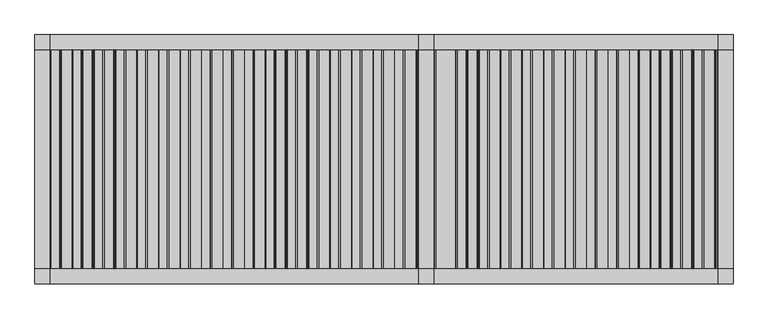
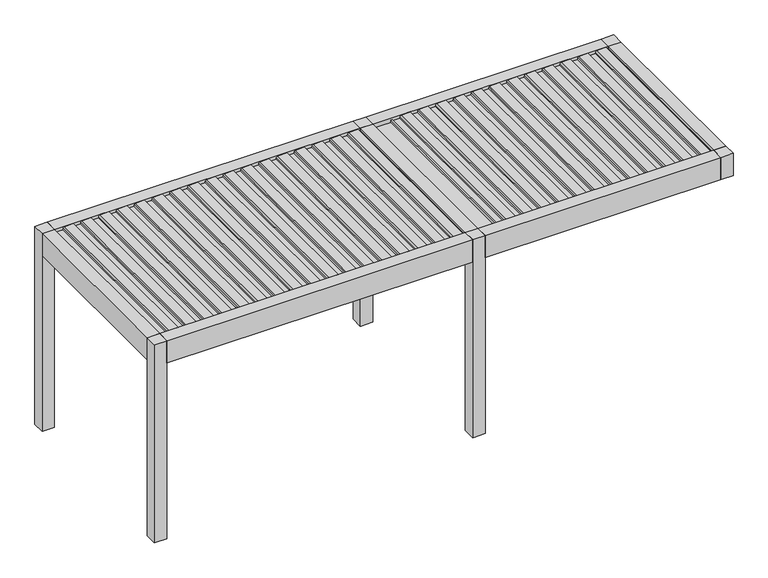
"""IFC4 building model written with IfcOpenShell, lengths in millimetres: proxy geometry, Renson_Amani_Patio_Cover : Renson_Amani_Patio_Cover."""

import ifcopenshell
import ifcopenshell.guid

model = None  # the IFC model being written
_history = None  # IfcOwnerHistory: only IFC2X3 demands one
_inside = {}  # id of a spatial element -> (the spatial element, [elements in it])
_under = {}  # id of a project, library or spatial element -> (it, [spatial elements below it])
_declared = {}  # id of a project -> (the project, [libraries it declares])
_typed = {}  # id of a type object -> (the type object, [elements of that type])
_made_of = {}  # id of a material, layer set ... -> (it, [elements and type objects made of it])


def new_model(schema):
    """Start an empty IFC model of exactly this schema.

    Asked for "IFC4X3", IfcOpenShell would pick the latest addendum, in which some entities
    have other attributes; the version numbers below select the first issue.
    IFC2X3 requires an IfcOwnerHistory on every rooted entity: one is made here for all.
    """
    global model, _history
    if schema == "IFC4X3":
        model = ifcopenshell.file(schema_version=(4, 3, 0, 0))
    else:
        model = ifcopenshell.file(schema=schema)
    _inside.clear()
    _under.clear()
    _declared.clear()
    _typed.clear()
    _made_of.clear()
    _history = None
    if model.schema == "IFC2X3":
        org = make("IfcOrganization", Name="unknown")
        user = make(
            "IfcPersonAndOrganization",
            ThePerson=make("IfcPerson", FamilyName="unknown"),
            TheOrganization=org,
        )
        app = make(
            "IfcApplication",
            ApplicationDeveloper=org,
            Version="unknown",
            ApplicationFullName="unknown",
            ApplicationIdentifier="unknown",
        )
        _history = make(
            "IfcOwnerHistory",
            OwningUser=user,
            OwningApplication=app,
            ChangeAction="ADDED",
            CreationDate=0,
        )
    return model


def make(cls, **values):
    """One entity of the class cls with the attributes given. An attribute that is None is left unset."""
    return model.create_entity(
        cls, **{name: value for name, value in values.items() if value is not None}
    )


def rooted(cls, **values):
    """An entity with a GlobalId (a new one), such as an element, a storey or a relation."""
    return make(cls, GlobalId=ifcopenshell.guid.new(), OwnerHistory=_history, **values)


def si_unit(unit_type, name, prefix=None):
    """IfcSIUnit, for example si_unit("LENGTHUNIT", "METRE", prefix="MILLI")."""
    return make("IfcSIUnit", UnitType=unit_type, Prefix=prefix, Name=name)


def assignment(units):
    """IfcUnitAssignment: the units of a project."""
    return None if units is None else make("IfcUnitAssignment", Units=units)


def point(xyz):
    """IfcCartesianPoint."""
    return None if xyz is None else make("IfcCartesianPoint", Coordinates=xyz)


def direction(xyz):
    """IfcDirection."""
    return None if xyz is None else make("IfcDirection", DirectionRatios=xyz)


def frame(location, z_axis=None, x_axis=None):
    """IfcAxis2Placement3D, a coordinate frame: its origin and axes. An axis left out is left unset."""
    return make(
        "IfcAxis2Placement3D",
        Location=point(location),
        Axis=direction(z_axis),
        RefDirection=direction(x_axis),
    )


def frame_2d(location, x_axis=None):
    """IfcAxis2Placement2D, a coordinate frame in the plane: its origin and x axis."""
    return make(
        "IfcAxis2Placement2D", Location=point(location), RefDirection=direction(x_axis)
    )


def origin():
    """The frame at (0, 0, 0) with its axes left unset."""
    return frame((0.0, 0.0, 0.0))


def origin_with_axes():
    """The frame at (0, 0, 0) with the z axis (0, 0, 1) and the x axis (1, 0, 0) written out."""
    return frame((0.0, 0.0, 0.0), z_axis=(0.0, 0.0, 1.0), x_axis=(1.0, 0.0, 0.0))


def place(relative_to, where):
    """IfcLocalPlacement: puts the frame where relative to a parent placement (None: the world)."""
    return make(
        "IfcLocalPlacement", PlacementRelTo=relative_to, RelativePlacement=where
    )


def context(
    kind, dimensions, precision=None, world=None, true_north=None, identifier=None
):
    """IfcGeometricRepresentationContext, for example the 3D "Model" context."""
    return make(
        "IfcGeometricRepresentationContext",
        ContextIdentifier=identifier,
        ContextType=kind,
        CoordinateSpaceDimension=dimensions,
        Precision=precision,
        WorldCoordinateSystem=world,
        TrueNorth=true_north,
    )


def project(units=None, contexts=None):
    """IfcProject with its units and contexts."""
    return rooted(
        "IfcProject",
        Name="project",
        RepresentationContexts=contexts,
        UnitsInContext=assignment(units),
    )


def spatial(cls, under=None, at=None, **own):
    """A site, building, storey or space (cls), placed at a placement, below another one or the project."""
    s = rooted(cls, ObjectPlacement=at, **own)
    if under is not None:
        _under.setdefault(under.id(), (under, []))[1].append(s)
    return s


def polyline(points):
    """IfcPolyline through the points."""
    return make("IfcPolyline", Points=[point(p) for p in points])


def circle_curve(where, radius):
    """IfcCircle in the frame where."""
    return make("IfcCircle", Position=where, Radius=radius)


def trimmed(basis, trim1, trim2, sense, master):
    """IfcTrimmedCurve: the piece of a basis curve between two trims."""
    return make(
        "IfcTrimmedCurve",
        BasisCurve=basis,
        Trim1=trim1,
        Trim2=trim2,
        SenseAgreement=sense,
        MasterRepresentation=master,
    )


def segment(curve, same_sense, transition):
    """IfcCompositeCurveSegment."""
    return make(
        "IfcCompositeCurveSegment",
        Transition=transition,
        SameSense=same_sense,
        ParentCurve=curve,
    )


def composite_curve(segments, self_intersect=None):
    """IfcCompositeCurve: segments joined end to end."""
    return make("IfcCompositeCurve", Segments=segments, SelfIntersect=self_intersect)


def outline(outer, holes=None, kind="AREA"):
    """IfcArbitraryClosedProfileDef: a profile drawn as a closed curve; with holes, ...WithVoids."""
    if holes is None:
        return make("IfcArbitraryClosedProfileDef", ProfileType=kind, OuterCurve=outer)
    return make(
        "IfcArbitraryProfileDefWithVoids",
        ProfileType=kind,
        OuterCurve=outer,
        InnerCurves=holes,
    )


def extrude(swept, where, along, depth):
    """IfcExtrudedAreaSolid: the profile swept, set in the frame where, extruded along a direction by depth."""
    return make(
        "IfcExtrudedAreaSolid",
        SweptArea=swept,
        Position=where,
        ExtrudedDirection=direction(along),
        Depth=depth,
    )


def shape(context_of_items, identifier, shape_type, items):
    """IfcShapeRepresentation: the items that make up one representation, for example the "Body"."""
    return make(
        "IfcShapeRepresentation",
        ContextOfItems=context_of_items,
        RepresentationIdentifier=identifier,
        RepresentationType=shape_type,
        Items=items,
    )


def source(mapping_origin, context_of_items, identifier, shape_type, items):
    """IfcRepresentationMap: a shape defined once, which mapped items show again and again."""
    return make(
        "IfcRepresentationMap",
        MappingOrigin=mapping_origin,
        MappedRepresentation=shape(context_of_items, identifier, shape_type, items),
    )


def transform(
    local_origin,
    x_axis=None,
    y_axis=None,
    z_axis=None,
    scale=None,
    scale2=None,
    scale3=None,
    uniform=True,
):
    """IfcCartesianTransformationOperator3D, or its non-uniform kind. x_axis, y_axis, z_axis: its Axis1, 2, 3."""
    if uniform:
        return make(
            "IfcCartesianTransformationOperator3D",
            Axis1=direction(x_axis),
            Axis2=direction(y_axis),
            LocalOrigin=point(local_origin),
            Scale=scale,
            Axis3=direction(z_axis),
        )
    return make(
        "IfcCartesianTransformationOperator3DnonUniform",
        Axis1=direction(x_axis),
        Axis2=direction(y_axis),
        LocalOrigin=point(local_origin),
        Scale=scale,
        Axis3=direction(z_axis),
        Scale2=scale2,
        Scale3=scale3,
    )


def mapped(mapping_source, mapping_target):
    """IfcMappedItem: shows the shape of a source again, moved by a transform."""
    return make(
        "IfcMappedItem", MappingSource=mapping_source, MappingTarget=mapping_target
    )


def made_of(thing, what):
    """Note that an element or type object is made of a material, layer set ...; save() writes the relation."""
    if what is not None:
        _made_of.setdefault(what.id(), (what, []))[1].append(thing)
    return thing


def element(
    cls,
    number,
    at=None,
    inside=None,
    cuts=None,
    type_object=None,
    material=None,
    context=None,
    identifier="Body",
    shape_type=None,
    held_by="IfcProductDefinitionShape",
    body=None,
    shapes=None,
    **own,
):
    """One element of the class cls, such as IfcWall. Its Tag is "e" and its number.

    at: its placement. inside: the storey or other place that contains it. cuts: it is an
    opening in that element (IfcRelVoidsElement). A single representation is given by context,
    identifier, shape_type and body (its items); several are given by shapes. held_by: the class
    of the entity that holds the representations. save() writes the other relations.
    """
    e = rooted(cls, Tag="e%d" % number, ObjectPlacement=at, **own)
    if body is not None:
        shapes = [shape(context, identifier, shape_type, body)]
    if shapes is not None:
        e.Representation = make(held_by, Representations=shapes)
    if inside is not None:
        _inside.setdefault(inside.id(), (inside, []))[1].append(e)
    if cuts is not None:
        rooted(
            "IfcRelVoidsElement", RelatingBuildingElement=cuts, RelatedOpeningElement=e
        )
    if type_object is not None:
        _typed.setdefault(type_object.id(), (type_object, []))[1].append(e)
    return made_of(e, material)


def aggregate(whole, parts):
    """IfcRelAggregates: a whole, such as a stair, and the parts it consists of."""
    return rooted("IfcRelAggregates", RelatingObject=whole, RelatedObjects=parts)


def save(model, path):
    """Write the relations noted so far, then the file.

    IfcRelAggregates (storeys below a building ...), IfcRelContainedInSpatialStructure (elements
    in a storey), IfcRelDefinesByType, IfcRelAssociatesMaterial and IfcRelDeclares: one each for
    every whole, place, type object, material and project.
    """
    for whole, parts in _under.values():
        aggregate(whole, parts)
    for where, things in _inside.values():
        rooted(
            "IfcRelContainedInSpatialStructure",
            RelatedElements=things,
            RelatingStructure=where,
        )
    for kind, things in _typed.values():
        rooted("IfcRelDefinesByType", RelatedObjects=things, RelatingType=kind)
    for what, things in _made_of.values():
        rooted("IfcRelAssociatesMaterial", RelatedObjects=things, RelatingMaterial=what)
    for by, libraries in _declared.values():
        rooted("IfcRelDeclares", RelatingContext=by, RelatedDefinitions=libraries)
    model.write(path)


def generic_models_2a29c63b(model_context):
    return source(origin(), model_context, "Body", "SweptSolid", [
        extrude(outline(composite_curve([segment(polyline([(2483.35, 4573.7289238), (2511.01198, 4576.1490335), (2512.3970364, 4604.984284), (2531.8911096, 4601.5469529), (2526.6075693, 4491.549838)]), True, "CONTINUOUS"), segment(trimmed(circle_curve(frame_2d((2511.6248435, 4492.26951)), 15.0), [point((2526.6075693, 4491.549838))], [point((2514.2295662, 4477.4973937))], False, "CARTESIAN"), True, "CONTINUOUS"), segment(polyline([(2514.2295662, 4477.4973937), (2495.0, 4474.1067023), (2495.0, 4386.3709263), (2512.0788237, 4383.3594689), (2511.3450182, 4368.0824984), (2483.35, 4365.6332517), (2483.35, 4573.7289238)]), True, "CONTINUOUS")], self_intersect=False)), frame((0.0, -1100.0, 0.0), z_axis=(0.0, 1.0, 0.0), x_axis=(0.0, 0.0, 1.0)), (0.0, 0.0, 1.0), 2200.0),
        extrude(outline(composite_curve([segment(polyline([(2483.35, 4358.7132078), (2511.01198, 4361.1333174), (2512.3970364, 4389.9685679), (2531.8911096, 4386.5312368), (2526.6075693, 4276.534122)]), True, "CONTINUOUS"), segment(trimmed(circle_curve(frame_2d((2511.6248435, 4277.2537939)), 15.0), [point((2526.6075693, 4276.534122))], [point((2514.2295662, 4262.4816776))], False, "CARTESIAN"), True, "CONTINUOUS"), segment(polyline([(2514.2295662, 4262.4816776), (2495.0, 4259.0909863), (2495.0, 4171.3552102), (2512.0788237, 4168.3437528), (2511.3450182, 4153.0667824), (2483.35, 4150.6175356), (2483.35, 4358.7132078)]), True, "CONTINUOUS")], self_intersect=False)), frame((0.0, -1100.0, 0.0), z_axis=(0.0, 1.0, 0.0), x_axis=(0.0, 0.0, 1.0)), (0.0, 0.0, 1.0), 2200.0),
        extrude(outline(composite_curve([segment(polyline([(2483.35, 4143.6974917), (2511.01198, 4146.1176014), (2512.3970364, 4174.9528519), (2531.8911096, 4171.5155208), (2526.6075693, 4061.5184059)]), True, "CONTINUOUS"), segment(trimmed(circle_curve(frame_2d((2511.6248435, 4062.2380779)), 15.0), [point((2526.6075693, 4061.5184059))], [point((2514.2295662, 4047.4659616))], False, "CARTESIAN"), True, "CONTINUOUS"), segment(polyline([(2514.2295662, 4047.4659616), (2495.0, 4044.0752702), (2495.0, 3956.3394942), (2512.0788237, 3953.3280368), (2511.3450182, 3938.0510663), (2483.35, 3935.6018196), (2483.35, 4143.6974917)]), True, "CONTINUOUS")], self_intersect=False)), frame((0.0, -1100.0, 0.0), z_axis=(0.0, 1.0, 0.0), x_axis=(0.0, 0.0, 1.0)), (0.0, 0.0, 1.0), 2200.0),
        extrude(outline(composite_curve([segment(polyline([(2483.35, 3928.6817757), (2511.01198, 3931.1018854), (2512.3970364, 3959.9371358), (2531.8911096, 3956.4998047), (2526.6075693, 3846.5026899)]), True, "CONTINUOUS"), segment(trimmed(circle_curve(frame_2d((2511.6248435, 3847.2223618)), 15.0), [point((2526.6075693, 3846.5026899))], [point((2514.2295662, 3832.4502455))], False, "CARTESIAN"), True, "CONTINUOUS"), segment(polyline([(2514.2295662, 3832.4502455), (2495.0, 3829.0595542), (2495.0, 3741.3237782), (2512.0788237, 3738.3123207), (2511.3450182, 3723.0353503), (2483.35, 3720.5861035), (2483.35, 3928.6817757)]), True, "CONTINUOUS")], self_intersect=False)), frame((0.0, -1100.0, 0.0), z_axis=(0.0, 1.0, 0.0), x_axis=(0.0, 0.0, 1.0)), (0.0, 0.0, 1.0), 2200.0),
        extrude(outline(composite_curve([segment(polyline([(2483.35, 3713.6660597), (2511.01198, 3716.0861693), (2512.3970364, 3744.9214198), (2531.8911096, 3741.4840887), (2526.6075693, 3631.4869738)]), True, "CONTINUOUS"), segment(trimmed(circle_curve(frame_2d((2511.6248435, 3632.2066458)), 15.0), [point((2526.6075693, 3631.4869738))], [point((2514.2295662, 3617.4345295))], False, "CARTESIAN"), True, "CONTINUOUS"), segment(polyline([(2514.2295662, 3617.4345295), (2495.0, 3614.0438381), (2495.0, 3526.3080621), (2512.0788237, 3523.2966047), (2511.3450182, 3508.0196342), (2483.35, 3505.5703875), (2483.35, 3713.6660597)]), True, "CONTINUOUS")], self_intersect=False)), frame((0.0, -1100.0, 0.0), z_axis=(0.0, 1.0, 0.0), x_axis=(0.0, 0.0, 1.0)), (0.0, 0.0, 1.0), 2200.0),
        extrude(outline(composite_curve([segment(polyline([(2483.35, 3498.6503436), (2511.01198, 3501.0704533), (2512.3970364, 3529.9057037), (2531.8911096, 3526.4683726), (2526.6075693, 3416.4712578)]), True, "CONTINUOUS"), segment(trimmed(circle_curve(frame_2d((2511.6248435, 3417.1909297)), 15.0), [point((2526.6075693, 3416.4712578))], [point((2514.2295662, 3402.4188134))], False, "CARTESIAN"), True, "CONTINUOUS"), segment(polyline([(2514.2295662, 3402.4188134), (2495.0, 3399.0281221), (2495.0, 3311.2923461), (2512.0788237, 3308.2808886), (2511.3450182, 3293.0039182), (2483.35, 3290.5546714), (2483.35, 3498.6503436)]), True, "CONTINUOUS")], self_intersect=False)), frame((0.0, -1100.0, 0.0), z_axis=(0.0, 1.0, 0.0), x_axis=(0.0, 0.0, 1.0)), (0.0, 0.0, 1.0), 2200.0),
        extrude(outline(composite_curve([segment(polyline([(2483.35, 3283.6346276), (2511.01198, 3286.0547372), (2512.3970364, 3314.8899877), (2531.8911096, 3311.4526566), (2526.6075693, 3201.4555418)]), True, "CONTINUOUS"), segment(trimmed(circle_curve(frame_2d((2511.6248435, 3202.1752137)), 15.0), [point((2526.6075693, 3201.4555418))], [point((2514.2295662, 3187.4030974))], False, "CARTESIAN"), True, "CONTINUOUS"), segment(polyline([(2514.2295662, 3187.4030974), (2495.0, 3184.012406), (2495.0, 3096.27663), (2512.0788237, 3093.2651726), (2511.3450182, 3077.9882021), (2483.35, 3075.5389554), (2483.35, 3283.6346276)]), True, "CONTINUOUS")], self_intersect=False)), frame((0.0, -1100.0, 0.0), z_axis=(0.0, 1.0, 0.0), x_axis=(0.0, 0.0, 1.0)), (0.0, 0.0, 1.0), 2200.0),
        extrude(outline(composite_curve([segment(polyline([(2483.35, 3068.6189115), (2511.01198, 3071.0390212), (2512.3970364, 3099.8742716), (2531.8911096, 3096.4369406), (2526.6075693, 2986.4398257)]), True, "CONTINUOUS"), segment(trimmed(circle_curve(frame_2d((2511.6248435, 2987.1594976)), 15.0), [point((2526.6075693, 2986.4398257))], [point((2514.2295662, 2972.3873813))], False, "CARTESIAN"), True, "CONTINUOUS"), segment(polyline([(2514.2295662, 2972.3873813), (2495.0, 2968.99669), (2495.0, 2881.260914), (2512.0788237, 2878.2494566), (2511.3450182, 2862.9724861), (2483.35, 2860.5232394), (2483.35, 3068.6189115)]), True, "CONTINUOUS")], self_intersect=False)), frame((0.0, -1100.0, 0.0), z_axis=(0.0, 1.0, 0.0), x_axis=(0.0, 0.0, 1.0)), (0.0, 0.0, 1.0), 2200.0),
        extrude(outline(composite_curve([segment(polyline([(2483.35, 2853.6031955), (2511.01198, 2856.0233051), (2512.3970364, 2884.8585556), (2531.8911096, 2881.4212245), (2526.6075693, 2771.4241097)]), True, "CONTINUOUS"), segment(trimmed(circle_curve(frame_2d((2511.6248435, 2772.1437816)), 15.0), [point((2526.6075693, 2771.4241097))], [point((2514.2295662, 2757.3716653))], False, "CARTESIAN"), True, "CONTINUOUS"), segment(polyline([(2514.2295662, 2757.3716653), (2495.0, 2753.980974), (2495.0, 2666.2451979), (2512.0788237, 2663.2337405), (2511.3450182, 2647.95677), (2483.35, 2645.5075233), (2483.35, 2853.6031955)]), True, "CONTINUOUS")], self_intersect=False)), frame((0.0, -1100.0, 0.0), z_axis=(0.0, 1.0, 0.0), x_axis=(0.0, 0.0, 1.0)), (0.0, 0.0, 1.0), 2200.0),
        extrude(outline(composite_curve([segment(polyline([(2483.35, 2638.5874794), (2511.01198, 2641.0075891), (2512.3970364, 2669.8428395), (2531.8911096, 2666.4055085), (2526.6075693, 2556.4083936)]), True, "CONTINUOUS"), segment(trimmed(circle_curve(frame_2d((2511.6248435, 2557.1280655)), 15.0), [point((2526.6075693, 2556.4083936))], [point((2514.2295662, 2542.3559492))], False, "CARTESIAN"), True, "CONTINUOUS"), segment(polyline([(2514.2295662, 2542.3559492), (2495.0, 2538.9652579), (2495.0, 2451.2294819), (2512.0788237, 2448.2180245), (2511.3450182, 2432.941054), (2483.35, 2430.4918073), (2483.35, 2638.5874794)]), True, "CONTINUOUS")], self_intersect=False)), frame((0.0, -1100.0, 0.0), z_axis=(0.0, 1.0, 0.0), x_axis=(0.0, 0.0, 1.0)), (0.0, 0.0, 1.0), 2200.0),
        extrude(outline(composite_curve([segment(polyline([(2483.35, 4788.7446399), (2511.01198, 4791.1647495), (2512.3970364, 4820.0), (2531.8911096, 4816.5626689), (2526.6075693, 4706.5655541)]), True, "CONTINUOUS"), segment(trimmed(circle_curve(frame_2d((2511.6248435, 4707.285226)), 15.0), [point((2526.6075693, 4706.5655541))], [point((2514.2295662, 4692.5131097))], False, "CARTESIAN"), True, "CONTINUOUS"), segment(polyline([(2514.2295662, 4692.5131097), (2495.0, 4689.1224184), (2495.0, 4601.3866423), (2512.0788237, 4598.3751849), (2511.3450182, 4583.0982144), (2483.35, 4580.6489677), (2483.35, 4788.7446399)]), True, "CONTINUOUS")], self_intersect=False)), frame((0.0, -1100.0, 0.0), z_axis=(0.0, 1.0, 0.0), x_axis=(0.0, 0.0, 1.0)), (0.0, 0.0, 1.0), 2200.0),
        extrude(outline(composite_curve([segment(polyline([(2483.35, 2423.5717634), (2511.01198, 2425.991873), (2512.3970364, 2454.8271235), (2531.8911096, 2451.3897924), (2526.6075693, 2341.3926776)]), True, "CONTINUOUS"), segment(trimmed(circle_curve(frame_2d((2511.6248435, 2342.1123495)), 15.0), [point((2526.6075693, 2341.3926776))], [point((2514.2295662, 2327.3402332))], False, "CARTESIAN"), True, "CONTINUOUS"), segment(polyline([(2514.2295662, 2327.3402332), (2495.0, 2323.9495419), (2495.0, 2236.2137658), (2512.0788237, 2233.2023084), (2511.3450182, 2217.9253379), (2483.35, 2215.4760912), (2483.35, 2423.5717634)]), True, "CONTINUOUS")], self_intersect=False)), frame((0.0, -1100.0, 0.0), z_axis=(0.0, 1.0, 0.0), x_axis=(0.0, 0.0, 1.0)), (0.0, 0.0, 1.0), 2200.0),
        extrude(outline(composite_curve([segment(polyline([(2483.35, 1573.7338351), (2511.01198, 1576.1539448), (2512.3970364, 1604.9891952), (2531.8911096, 1601.5518641), (2526.6075693, 1491.5547493)]), True, "CONTINUOUS"), segment(trimmed(circle_curve(frame_2d((2511.6248435, 1492.2744212)), 15.0), [point((2526.6075693, 1491.5547493))], [point((2514.2295662, 1477.5023049))], False, "CARTESIAN"), True, "CONTINUOUS"), segment(polyline([(2514.2295662, 1477.5023049), (2495.0, 1474.1116136), (2495.0, 1386.3758376), (2512.0788237, 1383.3643801), (2511.3450182, 1368.0874097), (2483.35, 1365.6381629), (2483.35, 1573.7338351)]), True, "CONTINUOUS")], self_intersect=False)), frame((0.0, -1100.0, 0.0), z_axis=(0.0, 1.0, 0.0), x_axis=(0.0, 0.0, 1.0)), (0.0, 0.0, 1.0), 2200.0),
        extrude(outline(composite_curve([segment(polyline([(2483.35, 1358.7230303), (2511.01198, 1361.14314), (2512.3970364, 1389.9783904), (2531.8911096, 1386.5410594), (2526.6075693, 1276.5439445)]), True, "CONTINUOUS"), segment(trimmed(circle_curve(frame_2d((2511.6248435, 1277.2636164)), 15.0), [point((2526.6075693, 1276.5439445))], [point((2514.2295662, 1262.4915001))], False, "CARTESIAN"), True, "CONTINUOUS"), segment(polyline([(2514.2295662, 1262.4915001), (2495.0, 1259.1008088), (2495.0, 1171.3650328), (2512.0788237, 1168.3535754), (2511.3450182, 1153.0766049), (2483.35, 1150.6273582), (2483.35, 1358.7230303)]), True, "CONTINUOUS")], self_intersect=False)), frame((0.0, -1100.0, 0.0), z_axis=(0.0, 1.0, 0.0), x_axis=(0.0, 0.0, 1.0)), (0.0, 0.0, 1.0), 2200.0),
        extrude(outline(composite_curve([segment(polyline([(2483.35, 1143.7122255), (2511.01198, 1146.1323352), (2512.3970364, 1174.9675857), (2531.8911096, 1171.5302546), (2526.6075693, 1061.5331397)]), True, "CONTINUOUS"), segment(trimmed(circle_curve(frame_2d((2511.6248435, 1062.2528117)), 15.0), [point((2526.6075693, 1061.5331397))], [point((2514.2295662, 1047.4806954))], False, "CARTESIAN"), True, "CONTINUOUS"), segment(polyline([(2514.2295662, 1047.4806954), (2495.0, 1044.090004), (2495.0, 956.354228), (2512.0788237, 953.3427706), (2511.3450182, 938.0658001), (2483.35, 935.6165534), (2483.35, 1143.7122255)]), True, "CONTINUOUS")], self_intersect=False)), frame((0.0, -1100.0, 0.0), z_axis=(0.0, 1.0, 0.0), x_axis=(0.0, 0.0, 1.0)), (0.0, 0.0, 1.0), 2200.0),
        extrude(outline(composite_curve([segment(polyline([(2483.35, 928.7014208), (2511.01198, 931.1215304), (2512.3970364, 959.9567809), (2531.8911096, 956.5194498), (2526.6075693, 846.5223349)]), True, "CONTINUOUS"), segment(trimmed(circle_curve(frame_2d((2511.6248435, 847.2420069)), 15.0), [point((2526.6075693, 846.5223349))], [point((2514.2295662, 832.4698906))], False, "CARTESIAN"), True, "CONTINUOUS"), segment(polyline([(2514.2295662, 832.4698906), (2495.0, 829.0791992), (2495.0, 741.3434232), (2512.0788237, 738.3319658), (2511.3450182, 723.0549953), (2483.35, 720.6057486), (2483.35, 928.7014208)]), True, "CONTINUOUS")], self_intersect=False)), frame((0.0, -1100.0, 0.0), z_axis=(0.0, 1.0, 0.0), x_axis=(0.0, 0.0, 1.0)), (0.0, 0.0, 1.0), 2200.0),
        extrude(outline(composite_curve([segment(polyline([(2483.35, 713.690616), (2511.01198, 716.1107256), (2512.3970364, 744.9459761), (2531.8911096, 741.508645), (2526.6075693, 631.5115302)]), True, "CONTINUOUS"), segment(trimmed(circle_curve(frame_2d((2511.6248435, 632.2312021)), 15.0), [point((2526.6075693, 631.5115302))], [point((2514.2295662, 617.4590858))], False, "CARTESIAN"), True, "CONTINUOUS"), segment(polyline([(2514.2295662, 617.4590858), (2495.0, 614.0683945), (2495.0, 526.3326184), (2512.0788237, 523.321161), (2511.3450182, 508.0441905), (2483.35, 505.5949438), (2483.35, 713.690616)]), True, "CONTINUOUS")], self_intersect=False)), frame((0.0, -1100.0, 0.0), z_axis=(0.0, 1.0, 0.0), x_axis=(0.0, 0.0, 1.0)), (0.0, 0.0, 1.0), 2200.0),
        extrude(outline(composite_curve([segment(polyline([(2483.35, 498.6798112), (2511.01198, 501.0999209), (2512.3970364, 529.9351713), (2531.8911096, 526.4978402), (2526.6075693, 416.5007254)]), True, "CONTINUOUS"), segment(trimmed(circle_curve(frame_2d((2511.6248435, 417.2203973)), 15.0), [point((2526.6075693, 416.5007254))], [point((2514.2295662, 402.448281))], False, "CARTESIAN"), True, "CONTINUOUS"), segment(polyline([(2514.2295662, 402.448281), (2495.0, 399.0575897), (2495.0, 311.3218136), (2512.0788237, 308.3103562), (2511.3450182, 293.0333858), (2483.35, 290.584139), (2483.35, 498.6798112)]), True, "CONTINUOUS")], self_intersect=False)), frame((0.0, -1100.0, 0.0), z_axis=(0.0, 1.0, 0.0), x_axis=(0.0, 0.0, 1.0)), (0.0, 0.0, 1.0), 2200.0),
        extrude(outline(composite_curve([segment(polyline([(2483.35, 283.6690064), (2511.01198, 286.0891161), (2512.3970364, 314.9243665), (2531.8911096, 311.4870355), (2526.6075693, 201.4899206)]), True, "CONTINUOUS"), segment(trimmed(circle_curve(frame_2d((2511.6248435, 202.2095925)), 15.0), [point((2526.6075693, 201.4899206))], [point((2514.2295662, 187.4374762))], False, "CARTESIAN"), True, "CONTINUOUS"), segment(polyline([(2514.2295662, 187.4374762), (2495.0, 184.0467849), (2495.0, 96.3110089), (2512.0788237, 93.2995515), (2511.3450182, 78.022581), (2483.35, 75.5733343), (2483.35, 283.6690064)]), True, "CONTINUOUS")], self_intersect=False)), frame((0.0, -1100.0, 0.0), z_axis=(0.0, 1.0, 0.0), x_axis=(0.0, 0.0, 1.0)), (0.0, 0.0, 1.0), 2200.0),
        extrude(outline(composite_curve([segment(polyline([(2483.35, 68.6582016), (2511.01198, 71.0783113), (2512.3970364, 99.9135617), (2531.8911096, 96.4762307), (2526.6075693, -13.5208842)]), True, "CONTINUOUS"), segment(trimmed(circle_curve(frame_2d((2511.6248435, -12.8012122)), 15.0), [point((2526.6075693, -13.5208842))], [point((2514.2295662, -27.5733285))], False, "CARTESIAN"), True, "CONTINUOUS"), segment(polyline([(2514.2295662, -27.5733285), (2495.0, -30.9640199), (2495.0, -118.6997959), (2512.0788237, -121.7112533), (2511.3450182, -136.9882238), (2483.35, -139.4374705), (2483.35, 68.6582016)]), True, "CONTINUOUS")], self_intersect=False)), frame((0.0, -1100.0, 0.0), z_axis=(0.0, 1.0, 0.0), x_axis=(0.0, 0.0, 1.0)), (0.0, 0.0, 1.0), 2200.0),
        extrude(outline(composite_curve([segment(polyline([(2483.35, -146.3526032), (2511.01198, -143.9324935), (2512.3970364, -115.097243), (2531.8911096, -118.5345741), (2526.6075693, -228.531689)]), True, "CONTINUOUS"), segment(trimmed(circle_curve(frame_2d((2511.6248435, -227.812017)), 15.0), [point((2526.6075693, -228.531689))], [point((2514.2295662, -242.5841333))], False, "CARTESIAN"), True, "CONTINUOUS"), segment(polyline([(2514.2295662, -242.5841333), (2495.0, -245.9748247), (2495.0, -333.7106007), (2512.0788237, -336.7220581), (2511.3450182, -351.9990286), (2483.35, -354.4482753), (2483.35, -146.3526032)]), True, "CONTINUOUS")], self_intersect=False)), frame((0.0, -1100.0, 0.0), z_axis=(0.0, 1.0, 0.0), x_axis=(0.0, 0.0, 1.0)), (0.0, 0.0, 1.0), 2200.0),
        extrude(outline(composite_curve([segment(polyline([(2483.35, -361.3634079), (2511.01198, -358.9432983), (2512.3970364, -330.1080478), (2531.8911096, -333.5453789), (2526.6075693, -443.5424937)]), True, "CONTINUOUS"), segment(trimmed(circle_curve(frame_2d((2511.6248435, -442.8228218)), 15.0), [point((2526.6075693, -443.5424937))], [point((2514.2295662, -457.5949381))], False, "CARTESIAN"), True, "CONTINUOUS"), segment(polyline([(2514.2295662, -457.5949381), (2495.0, -460.9856294), (2495.0, -548.7214055), (2512.0788237, -551.7328629), (2511.3450182, -567.0098334), (2483.35, -569.4590801), (2483.35, -361.3634079)]), True, "CONTINUOUS")], self_intersect=False)), frame((0.0, -1100.0, 0.0), z_axis=(0.0, 1.0, 0.0), x_axis=(0.0, 0.0, 1.0)), (0.0, 0.0, 1.0), 2200.0),
        extrude(outline(composite_curve([segment(polyline([(2483.35, -576.3742127), (2511.01198, -573.9541031), (2512.3970364, -545.1188526), (2531.8911096, -548.5561837), (2526.6075693, -658.5532985)]), True, "CONTINUOUS"), segment(trimmed(circle_curve(frame_2d((2511.6248435, -657.8336266)), 15.0), [point((2526.6075693, -658.5532985))], [point((2514.2295662, -672.6057429))], False, "CARTESIAN"), True, "CONTINUOUS"), segment(polyline([(2514.2295662, -672.6057429), (2495.0, -675.9964342), (2495.0, -763.7322103), (2512.0788237, -766.7436677), (2511.3450182, -782.0206381), (2483.35, -784.4698849), (2483.35, -576.3742127)]), True, "CONTINUOUS")], self_intersect=False)), frame((0.0, -1100.0, 0.0), z_axis=(0.0, 1.0, 0.0), x_axis=(0.0, 0.0, 1.0)), (0.0, 0.0, 1.0), 2200.0),
        extrude(outline(composite_curve([segment(polyline([(2483.35, -791.3850175), (2511.01198, -788.9649078), (2512.3970364, -760.1296574), (2531.8911096, -763.5669885), (2526.6075693, -873.5641033)]), True, "CONTINUOUS"), segment(trimmed(circle_curve(frame_2d((2511.6248435, -872.8444314)), 15.0), [point((2526.6075693, -873.5641033))], [point((2514.2295662, -887.6165477))], False, "CARTESIAN"), True, "CONTINUOUS"), segment(polyline([(2514.2295662, -887.6165477), (2495.0, -891.007239), (2495.0, -978.743015), (2512.0788237, -981.7544725), (2511.3450182, -997.0314429), (2483.35, -999.4806897), (2483.35, -791.3850175)]), True, "CONTINUOUS")], self_intersect=False)), frame((0.0, -1100.0, 0.0), z_axis=(0.0, 1.0, 0.0), x_axis=(0.0, 0.0, 1.0)), (0.0, 0.0, 1.0), 2200.0),
        extrude(outline(composite_curve([segment(polyline([(2483.35, -1006.3958223), (2511.01198, -1003.9757126), (2512.3970364, -975.1404622), (2531.8911096, -978.5777932), (2526.6075693, -1088.5749081)]), True, "CONTINUOUS"), segment(trimmed(circle_curve(frame_2d((2511.6248435, -1087.8552362)), 15.0), [point((2526.6075693, -1088.5749081))], [point((2514.2295662, -1102.6273525))], False, "CARTESIAN"), True, "CONTINUOUS"), segment(polyline([(2514.2295662, -1102.6273525), (2495.0, -1106.0180438), (2495.0, -1193.7538198), (2512.0788237, -1196.7652772), (2511.3450182, -1212.0422477), (2483.35, -1214.4914944), (2483.35, -1006.3958223)]), True, "CONTINUOUS")], self_intersect=False)), frame((0.0, -1100.0, 0.0), z_axis=(0.0, 1.0, 0.0), x_axis=(0.0, 0.0, 1.0)), (0.0, 0.0, 1.0), 2200.0),
        extrude(outline(composite_curve([segment(polyline([(2483.35, -1221.4066271), (2511.01198, -1218.9865174), (2512.3970364, -1190.1512669), (2531.8911096, -1193.588598), (2526.6075693, -1303.5857129)]), True, "CONTINUOUS"), segment(trimmed(circle_curve(frame_2d((2511.6248435, -1302.8660409)), 15.0), [point((2526.6075693, -1303.5857129))], [point((2514.2295662, -1317.6381572))], False, "CARTESIAN"), True, "CONTINUOUS"), segment(polyline([(2514.2295662, -1317.6381572), (2495.0, -1321.0288486), (2495.0, -1408.7646246), (2512.0788237, -1411.776082), (2511.3450182, -1427.0530525), (2483.35, -1429.5022992), (2483.35, -1221.4066271)]), True, "CONTINUOUS")], self_intersect=False)), frame((0.0, -1100.0, 0.0), z_axis=(0.0, 1.0, 0.0), x_axis=(0.0, 0.0, 1.0)), (0.0, 0.0, 1.0), 2200.0),
        extrude(outline(composite_curve([segment(polyline([(2483.35, -1436.4174318), (2511.01198, -1433.9973222), (2512.3970364, -1405.1620717), (2531.8911096, -1408.5994028), (2526.6075693, -1518.5965176)]), True, "CONTINUOUS"), segment(trimmed(circle_curve(frame_2d((2511.6248435, -1517.8768457)), 15.0), [point((2526.6075693, -1518.5965176))], [point((2514.2295662, -1532.648962))], False, "CARTESIAN"), True, "CONTINUOUS"), segment(polyline([(2514.2295662, -1532.648962), (2495.0, -1536.0396534), (2495.0, -1623.7754294), (2512.0788237, -1626.7868868), (2511.3450182, -1642.0638573), (2483.35, -1644.513104), (2483.35, -1436.4174318)]), True, "CONTINUOUS")], self_intersect=False)), frame((0.0, -1100.0, 0.0), z_axis=(0.0, 1.0, 0.0), x_axis=(0.0, 0.0, 1.0)), (0.0, 0.0, 1.0), 2200.0),
        extrude(outline(composite_curve([segment(polyline([(2483.35, 1788.7446399), (2511.01198, 1791.1647495), (2512.3970364, 1820.0), (2531.8911096, 1816.5626689), (2526.6075693, 1706.5655541)]), True, "CONTINUOUS"), segment(trimmed(circle_curve(frame_2d((2511.6248435, 1707.285226)), 15.0), [point((2526.6075693, 1706.5655541))], [point((2514.2295662, 1692.5131097))], False, "CARTESIAN"), True, "CONTINUOUS"), segment(polyline([(2514.2295662, 1692.5131097), (2495.0, 1689.1224184), (2495.0, 1601.3866423), (2512.0788237, 1598.3751849), (2511.3450182, 1583.0982144), (2483.35, 1580.6489677), (2483.35, 1788.7446399)]), True, "CONTINUOUS")], self_intersect=False)), frame((0.0, -1100.0, 0.0), z_axis=(0.0, 1.0, 0.0), x_axis=(0.0, 0.0, 1.0)), (0.0, 0.0, 1.0), 2200.0),
        extrude(outline(composite_curve([segment(polyline([(2483.35, -1651.4282366), (2511.01198, -1649.008127), (2512.3970364, -1620.1728765), (2531.8911096, -1623.6102076), (2526.6075693, -1733.6073224)]), True, "CONTINUOUS"), segment(trimmed(circle_curve(frame_2d((2511.6248435, -1732.8876505)), 15.0), [point((2526.6075693, -1733.6073224))], [point((2514.2295662, -1747.6597668))], False, "CARTESIAN"), True, "CONTINUOUS"), segment(polyline([(2514.2295662, -1747.6597668), (2495.0, -1751.0504581), (2495.0, -1838.7862342), (2512.0788237, -1841.7976916), (2511.3450182, -1857.0746621), (2483.35, -1859.5239088), (2483.35, -1651.4282366)]), True, "CONTINUOUS")], self_intersect=False)), frame((0.0, -1100.0, 0.0), z_axis=(0.0, 1.0, 0.0), x_axis=(0.0, 0.0, 1.0)), (0.0, 0.0, 1.0), 2200.0),
        extrude(outline(polyline([(5000.0, -1100.0), (5000.0, -1250.0), (4850.0, -1250.0), (4850.0, -1100.0), (5000.0, -1100.0)])), frame((0.0, 0.0, 2250.0), z_axis=(0.0, 0.0, 1.0), x_axis=(1.0, 0.0, 0.0)), (0.0, 0.0, 1.0), 285.0),
        extrude(outline(polyline([(5000.0, 1100.0), (4850.0, 1100.0), (4850.0, 1250.0), (5000.0, 1250.0), (5000.0, 1100.0)])), frame((0.0, 0.0, 2250.0), z_axis=(0.0, 0.0, 1.0), x_axis=(1.0, 0.0, 0.0)), (0.0, 0.0, 1.0), 285.0),
        extrude(outline(polyline([(2000.0, -1100.0), (2000.0, -1250.0), (1850.0, -1250.0), (1850.0, -1100.0), (2000.0, -1100.0)])), origin_with_axes(), (0.0, 0.0, 1.0), 2535.0),
        extrude(outline(polyline([(2000.0, 1250.0), (2000.0, 1100.0), (1850.0, 1100.0), (1850.0, 1250.0), (2000.0, 1250.0)])), origin_with_axes(), (0.0, 0.0, 1.0), 2535.0),
        extrude(outline(polyline([(-1850.0, 1100.0), (-2000.0, 1100.0), (-2000.0, 1250.0), (-1850.0, 1250.0), (-1850.0, 1100.0)])), origin_with_axes(), (0.0, 0.0, 1.0), 2535.0),
        extrude(outline(polyline([(-1850.0, -1100.0), (-1850.0, -1250.0), (-2000.0, -1250.0), (-2000.0, -1100.0), (-1850.0, -1100.0)])), origin_with_axes(), (0.0, 0.0, 1.0), 2535.0),
        extrude(outline(polyline([(2466.6559373, 2000.0), (2466.6559373, 2210.0), (2480.6555802, 2213.7512887), (2480.6555802, 2020.4059055), (2496.400763, 2005.0), (2504.2449277, 2005.0), (2504.6823598, 2000.0), (2466.6559373, 2000.0)])), frame((0.0, -1100.0, 0.0), z_axis=(0.0, 1.0, 0.0), x_axis=(0.0, 0.0, 1.0)), (0.0, 0.0, 1.0), 2200.0),
        extrude(outline(polyline([(-1100.0, 2535.0), (-1100.0, 2322.0), (-1030.0000001, 2322.0), (-1030.0000001, 2250.0), (-1250.0, 2250.0), (-1250.0, 2535.0), (-1100.0, 2535.0)])), frame((2000.0, 0.0, 0.0), z_axis=(1.0, 0.0, 0.0), x_axis=(0.0, 1.0, 0.0)), (0.0, 0.0, 1.0), 2850.0),
        extrude(outline(polyline([(1250.0, 2250.0), (1030.0000001, 2250.0), (1030.0000001, 2322.0), (1100.0, 2322.0), (1100.0, 2535.0), (1250.0, 2535.0), (1250.0, 2250.0)])), frame((2000.0, 0.0, 0.0), z_axis=(1.0, 0.0, 0.0), x_axis=(0.0, 1.0, 0.0)), (0.0, 0.0, 1.0), 2850.0),
        extrude(outline(polyline([(2535.0, 5000.0), (2535.0, 4850.0), (2504.6823598, 4850.0), (2504.2449277, 4845.0), (2496.400763, 4845.0), (2480.6555802, 4829.2544156), (2480.6555802, 4819.9090324), (2466.6559373, 4823.6603211), (2466.6559373, 4850.0), (2250.0, 4850.0), (2250.0, 5000.0), (2535.0, 5000.0)])), frame((0.0, -1100.0, 0.0), z_axis=(0.0, 1.0, 0.0), x_axis=(0.0, 0.0, 1.0)), (0.0, 0.0, 1.0), 2200.0),
        extrude(outline(polyline([(2466.6559373, -1850.0), (2466.6559373, -1824.0), (2480.6555802, -1820.2487113), (2480.6555802, -1829.5940945), (2496.400763, -1845.0), (2504.2449277, -1845.0), (2504.6823598, -1850.0), (2466.6559373, -1850.0)])), frame((0.0, -1100.0, 0.0), z_axis=(0.0, 1.0, 0.0), x_axis=(0.0, 0.0, 1.0)), (0.0, 0.0, 1.0), 2200.0),
        extrude(outline(polyline([(-1850.0, -1100.0), (-2000.0, -1100.0), (-2000.0, 1100.0), (-1850.0, 1100.0), (-1850.0, -1100.0)])), frame((0.0, 0.0, 2250.0), z_axis=(0.0, 0.0, 1.0), x_axis=(1.0, 0.0, 0.0)), (0.0, 0.0, 1.0), 285.0),
        extrude(outline(polyline([(2535.0, 2000.0), (2535.0, 1850.0), (2504.6904658, 1850.0), (2504.2449277, 1845.0), (2496.400763, 1845.0), (2480.6555802, 1829.2544156), (2480.6555802, 1819.9090324), (2466.6559373, 1823.6603211), (2466.6559373, 1850.0), (2250.0, 1850.0), (2250.0, 2000.0), (2535.0, 2000.0)])), frame((0.0, -1100.0, 0.0), z_axis=(0.0, 1.0, 0.0), x_axis=(0.0, 0.0, 1.0)), (0.0, 0.0, 1.0), 2200.0),
        extrude(outline(polyline([(-1100.0, 2535.0), (-1100.0, 2322.0), (-1030.0000001, 2322.0), (-1030.0000001, 2250.0), (-1250.0, 2250.0), (-1250.0, 2535.0), (-1100.0, 2535.0)])), frame((-1850.0, 0.0, 0.0), z_axis=(1.0, 0.0, 0.0), x_axis=(0.0, 1.0, 0.0)), (0.0, 0.0, 1.0), 3700.0),
        extrude(outline(polyline([(1250.0, 2250.0), (1030.0000001, 2250.0), (1030.0000001, 2322.0), (1100.0, 2322.0), (1100.0, 2535.0), (1250.0, 2535.0), (1250.0, 2250.0)])), frame((-1850.0, 0.0, 0.0), z_axis=(1.0, 0.0, 0.0), x_axis=(0.0, 1.0, 0.0)), (0.0, 0.0, 1.0), 3700.0),
    ])


if __name__ == "__main__":
    model = new_model("IFC4")
    model_context = context("Model", 3, world=origin())
    ifc_project = project(units=[si_unit("LENGTHUNIT", "METRE", prefix="MILLI")], contexts=[model_context])
    site = spatial("IfcSite", under=ifc_project)
    building = spatial("IfcBuilding", under=site)
    placement = place(None, origin())
    generic_models_shape = generic_models_2a29c63b(model_context)
    element("IfcBuildingElementProxy", 1, Name="Renson_Amani_Patio_Cover : Renson_Amani_Patio_Cover", ObjectType="Renson_Amani_Patio_Cover : Renson_Amani_Patio_Cover", at=placement, inside=building, context=model_context, shape_type="MappedRepresentation", body=[
        mapped(generic_models_shape, transform((0.0, 0.0, 0.0), x_axis=(1.0, 0.0, 0.0), y_axis=(0.0, 1.0, 0.0), z_axis=(0.0, 0.0, 1.0))),
    ])
    save(model, "model.ifc")
